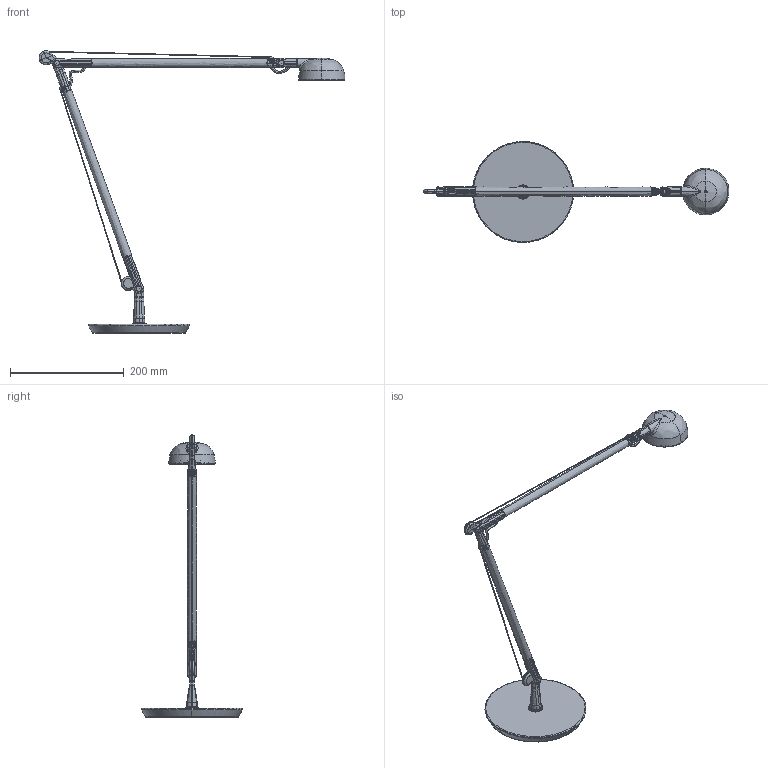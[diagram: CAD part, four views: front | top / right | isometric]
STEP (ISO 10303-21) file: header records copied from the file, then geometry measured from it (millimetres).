
FILE_DESCRIPTION(/* description */ (''),/* implementation_level */ '2;1');
FILE_NAME(/* name */ 'C068__~3',/* time_stamp */ '2024-07-09T17:13:01+02:00',/* author */ (''),/* organization */ (''),/* preprocessor_version */ 'ST-DEVELOPER v16.5',/* originating_system */ '',/* authorisation */ '');
FILE_SCHEMA (('AUTOMOTIVE_DESIGN'));
Products named in the file (1): Document
Bounding box: 539.21 x 177.74 x 497.51 mm (x, y, z)
Volume: 205071.9 mm3; surface area: 221304.9 mm2
Topology: 30 solids, 78 shells, 3797 faces, 8673 edges, 5487 vertices
Faces by surface type: bspline 2950, plane 847
Entity records: 175942 total; most frequent: CARTESIAN_POINT 124731, ORIENTED_EDGE 16991, EDGE_CURVE 8648, VERTEX_POINT 5485, B_SPLINE_CURVE_WITH_KNOTS 4480, EDGE_LOOP 4378, ADVANCED_FACE 3797, FACE_OUTER_BOUND 3797
